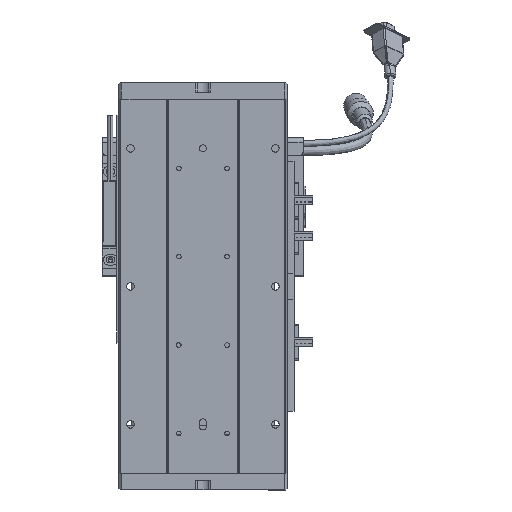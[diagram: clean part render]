
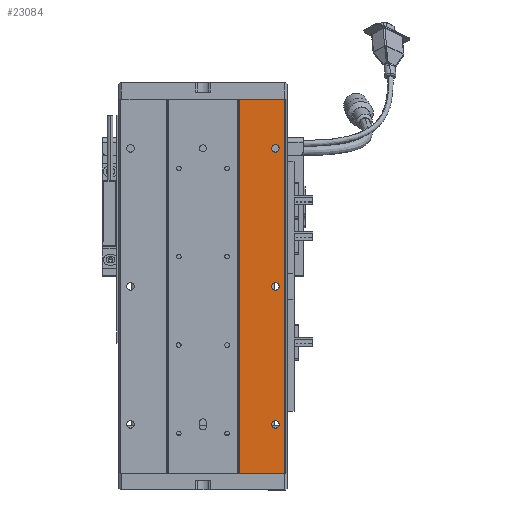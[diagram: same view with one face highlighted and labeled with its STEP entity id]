
A CAD part, front view. The second image highlights one B-rep face of the part: STEP entity #23084.
In plain terms, the highlighted planar face has unit normal (0, -1, 0).
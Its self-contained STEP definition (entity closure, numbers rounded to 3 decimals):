
#277 = EDGE_CURVE ( 'NONE', #61185, #5900, #17691, .T. ) ;
#632 = AXIS2_PLACEMENT_3D ( 'NONE', #2582, #31465, #11703 ) ;
#1582 = FACE_OUTER_BOUND ( 'NONE', #16183, .T. ) ;
#2582 = CARTESIAN_POINT ( 'NONE',  ( 207.625, 76.768, 235.5 ) ) ;
#2898 = DIRECTION ( 'NONE',  ( -1., 0., 0. ) ) ;
#3371 = VERTEX_POINT ( 'NONE', #40432 ) ;
#4606 = ORIENTED_EDGE ( 'NONE', *, *, #55395, .T. ) ;
#5406 = CARTESIAN_POINT ( 'NONE',  ( 207.625, 76.768, 38.25 ) ) ;
#5482 = EDGE_CURVE ( 'NONE', #28447, #33603, #17966, .T. ) ;
#5562 = EDGE_CURVE ( 'NONE', #3371, #24398, #62177, .T. ) ;
#5900 = VERTEX_POINT ( 'NONE', #13484 ) ;
#6233 = CARTESIAN_POINT ( 'NONE',  ( 207.625, 76.768, 35.5 ) ) ;
#6418 = CARTESIAN_POINT ( 'NONE',  ( 207.625, 76.768, 32.75 ) ) ;
#6914 = EDGE_LOOP ( 'NONE', ( #28689, #4606 ) ) ;
#8336 = LINE ( 'NONE', #47562, #59605 ) ;
#8492 = CARTESIAN_POINT ( 'NONE',  ( 0., 76.768, 0. ) ) ;
#8896 = ORIENTED_EDGE ( 'NONE', *, *, #40477, .T. ) ;
#9192 = DIRECTION ( 'NONE',  ( 0., 0., 1. ) ) ;
#11658 = VECTOR ( 'NONE', #21143, 1000. ) ;
#11703 = DIRECTION ( 'NONE',  ( 0., 0., 1. ) ) ;
#12869 = ORIENTED_EDGE ( 'NONE', *, *, #62414, .T. ) ;
#13484 = CARTESIAN_POINT ( 'NONE',  ( 207.625, 76.768, 138.25 ) ) ;
#15559 = CIRCLE ( 'NONE', #61581, 2.75 ) ;
#16183 = EDGE_LOOP ( 'NONE', ( #60451, #44905, #37347, #8896 ) ) ;
#16767 = CARTESIAN_POINT ( 'NONE',  ( 181.625, 76.768, 271. ) ) ;
#17691 = CIRCLE ( 'NONE', #57603, 2.75 ) ;
#17732 = CARTESIAN_POINT ( 'NONE',  ( 207.625, 76.768, 232.75 ) ) ;
#17966 = LINE ( 'NONE', #8492, #31916 ) ;
#19220 = EDGE_LOOP ( 'NONE', ( #50833, #43496 ) ) ;
#19229 = CARTESIAN_POINT ( 'NONE',  ( 84.971, 76.768, 0. ) ) ;
#19663 = AXIS2_PLACEMENT_3D ( 'NONE', #58024, #23939, #9192 ) ;
#20090 = DIRECTION ( 'NONE',  ( 0., 1., 0. ) ) ;
#20406 = CARTESIAN_POINT ( 'NONE',  ( 214.532, 76.768, 271. ) ) ;
#21143 = DIRECTION ( 'NONE',  ( 0., 0., -1. ) ) ;
#21591 = CARTESIAN_POINT ( 'NONE',  ( 207.625, 76.768, 135.5 ) ) ;
#22995 = CIRCLE ( 'NONE', #29643, 2.75 ) ;
#23084 = ADVANCED_FACE ( 'NONE', ( #55175, #47359, #59067, #1582 ), #59616, .F. ) ;
#23451 = AXIS2_PLACEMENT_3D ( 'NONE', #19229, #20090, #29678 ) ;
#23939 = DIRECTION ( 'NONE',  ( 0., 1., 0. ) ) ;
#24398 = VERTEX_POINT ( 'NONE', #17732 ) ;
#24967 = DIRECTION ( 'NONE',  ( 0., 0., 1. ) ) ;
#25596 = EDGE_LOOP ( 'NONE', ( #12869, #62274 ) ) ;
#28447 = VERTEX_POINT ( 'NONE', #50065 ) ;
#28641 = VERTEX_POINT ( 'NONE', #56942 ) ;
#28689 = ORIENTED_EDGE ( 'NONE', *, *, #5562, .T. ) ;
#28836 = VERTEX_POINT ( 'NONE', #29641 ) ;
#29277 = EDGE_CURVE ( 'NONE', #28641, #28447, #48299, .T. ) ;
#29641 = CARTESIAN_POINT ( 'NONE',  ( 181.625, 76.768, 271. ) ) ;
#29643 = AXIS2_PLACEMENT_3D ( 'NONE', #21591, #31564, #46935 ) ;
#29678 = DIRECTION ( 'NONE',  ( 0., 0., 1. ) ) ;
#30896 = EDGE_CURVE ( 'NONE', #50312, #32944, #38929, .T. ) ;
#31250 = DIRECTION ( 'NONE',  ( 0., 0., -1. ) ) ;
#31465 = DIRECTION ( 'NONE',  ( 0., 1., 0. ) ) ;
#31564 = DIRECTION ( 'NONE',  ( 0., 1., 0. ) ) ;
#31916 = VECTOR ( 'NONE', #63150, 1000. ) ;
#32944 = VERTEX_POINT ( 'NONE', #6418 ) ;
#33603 = VERTEX_POINT ( 'NONE', #36652 ) ;
#34745 = CARTESIAN_POINT ( 'NONE',  ( 207.625, 76.768, 235.5 ) ) ;
#36652 = CARTESIAN_POINT ( 'NONE',  ( 181.625, 76.768, 0. ) ) ;
#37347 = ORIENTED_EDGE ( 'NONE', *, *, #29277, .F. ) ;
#38510 = EDGE_CURVE ( 'NONE', #32944, #50312, #15559, .T. ) ;
#38929 = CIRCLE ( 'NONE', #19663, 2.75 ) ;
#39938 = DIRECTION ( 'NONE',  ( 0., 1., 0. ) ) ;
#40107 = DIRECTION ( 'NONE',  ( 0., 1., 0. ) ) ;
#40432 = CARTESIAN_POINT ( 'NONE',  ( 207.625, 76.768, 238.25 ) ) ;
#40477 = EDGE_CURVE ( 'NONE', #28641, #28836, #8336, .T. ) ;
#40696 = DIRECTION ( 'NONE',  ( 0., 1., 0. ) ) ;
#43496 = ORIENTED_EDGE ( 'NONE', *, *, #38510, .T. ) ;
#44904 = CARTESIAN_POINT ( 'NONE',  ( 207.625, 76.768, 135.5 ) ) ;
#44905 = ORIENTED_EDGE ( 'NONE', *, *, #5482, .F. ) ;
#45921 = EDGE_CURVE ( 'NONE', #28836, #33603, #54414, .T. ) ;
#45927 = CARTESIAN_POINT ( 'NONE',  ( 207.625, 76.768, 132.75 ) ) ;
#46935 = DIRECTION ( 'NONE',  ( 0., 0., 1. ) ) ;
#47359 = FACE_BOUND ( 'NONE', #19220, .T. ) ;
#47562 = CARTESIAN_POINT ( 'NONE',  ( 84.971, 76.768, 271. ) ) ;
#48299 = LINE ( 'NONE', #20406, #60751 ) ;
#50065 = CARTESIAN_POINT ( 'NONE',  ( 214.532, 76.768, 0. ) ) ;
#50312 = VERTEX_POINT ( 'NONE', #5406 ) ;
#50833 = ORIENTED_EDGE ( 'NONE', *, *, #30896, .T. ) ;
#54414 = LINE ( 'NONE', #16767, #11658 ) ;
#55175 = FACE_BOUND ( 'NONE', #6914, .T. ) ;
#55233 = DIRECTION ( 'NONE',  ( 0., 0., 1. ) ) ;
#55395 = EDGE_CURVE ( 'NONE', #24398, #3371, #60568, .T. ) ;
#56528 = AXIS2_PLACEMENT_3D ( 'NONE', #34745, #39938, #24967 ) ;
#56942 = CARTESIAN_POINT ( 'NONE',  ( 214.532, 76.768, 271. ) ) ;
#57603 = AXIS2_PLACEMENT_3D ( 'NONE', #44904, #40107, #59880 ) ;
#58024 = CARTESIAN_POINT ( 'NONE',  ( 207.625, 76.768, 35.5 ) ) ;
#59067 = FACE_BOUND ( 'NONE', #25596, .T. ) ;
#59605 = VECTOR ( 'NONE', #2898, 1000. ) ;
#59616 = PLANE ( 'NONE',  #23451 ) ;
#59880 = DIRECTION ( 'NONE',  ( 0., 0., 1. ) ) ;
#60451 = ORIENTED_EDGE ( 'NONE', *, *, #45921, .T. ) ;
#60568 = CIRCLE ( 'NONE', #632, 2.75 ) ;
#60751 = VECTOR ( 'NONE', #31250, 1000. ) ;
#61185 = VERTEX_POINT ( 'NONE', #45927 ) ;
#61581 = AXIS2_PLACEMENT_3D ( 'NONE', #6233, #40696, #55233 ) ;
#62177 = CIRCLE ( 'NONE', #56528, 2.75 ) ;
#62274 = ORIENTED_EDGE ( 'NONE', *, *, #277, .T. ) ;
#62414 = EDGE_CURVE ( 'NONE', #5900, #61185, #22995, .T. ) ;
#63150 = DIRECTION ( 'NONE',  ( -1., 0., 0. ) ) ;
